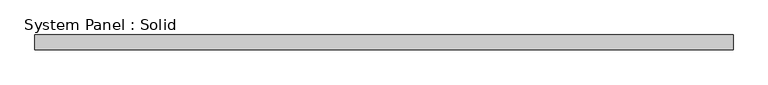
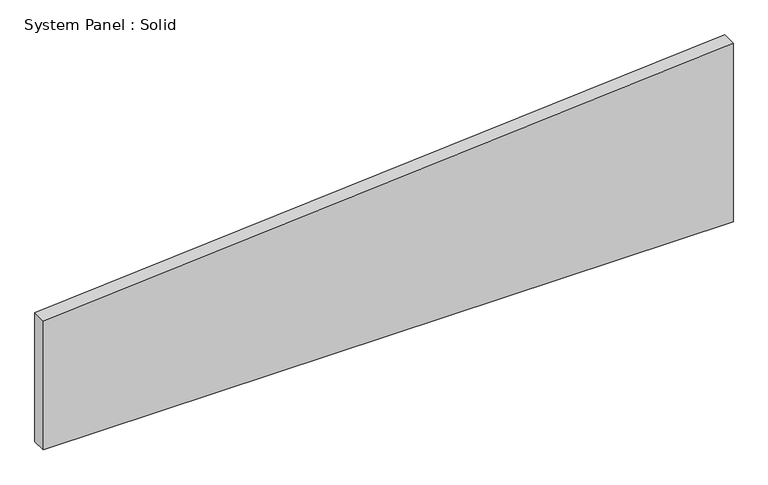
"""IFC4 building model written with IfcOpenShell, lengths in millimetres: plate geometry, System Panel : Solid."""

from ifc_helpers import new_model, si_unit, point, frame, frame_2d, origin, place, context, project, spatial, polyline, circle_curve, trimmed, segment, composite_curve, outline, extrude, source, transform, mapped, element, save


def system_panel_solid_29574cca(model_context):
    return source(origin(), model_context, "Body", "SweptSolid", [
        extrude(outline(composite_curve([segment(polyline([(0.0, -1492.25), (0.0, 1492.25), (815.3171112, 1492.25)]), True, "CONTINUOUS"), segment(trimmed(circle_curve(frame_2d((-21818.6486644, 1709.0658552)), 22635.0042157), [point((815.3171112, 1492.25))], [point((588.8276022, -1492.25))], False, "CARTESIAN"), True, "CONTINUOUS"), segment(polyline([(588.8276022, -1492.25), (0.0, -1492.25)]), True, "CONTINUOUS")], self_intersect=False)), frame((0.0, -19.05, 0.0), z_axis=(0.0, 1.0, 0.0), x_axis=(0.0, 0.0, 1.0)), (0.0, 0.0, 1.0), 63.5),
    ])


if __name__ == "__main__":
    model = new_model("IFC4")
    model_context = context("Model", 3, world=origin())
    ifc_project = project(units=[si_unit("LENGTHUNIT", "METRE", prefix="MILLI")], contexts=[model_context])
    site = spatial("IfcSite", under=ifc_project)
    building = spatial("IfcBuilding", under=site)
    placement = place(None, origin())
    system_panel_solid_shape = system_panel_solid_29574cca(model_context)
    element("IfcPlate", 1, ObjectType="System Panel : Solid", at=placement, inside=building, context=model_context, shape_type="MappedRepresentation", body=[
        mapped(system_panel_solid_shape, transform((0.0, 0.0, 0.0), x_axis=(1.0, 0.0, 0.0), y_axis=(0.0, 1.0, 0.0), z_axis=(0.0, 0.0, 1.0))),
    ])
    save(model, "model.ifc")
